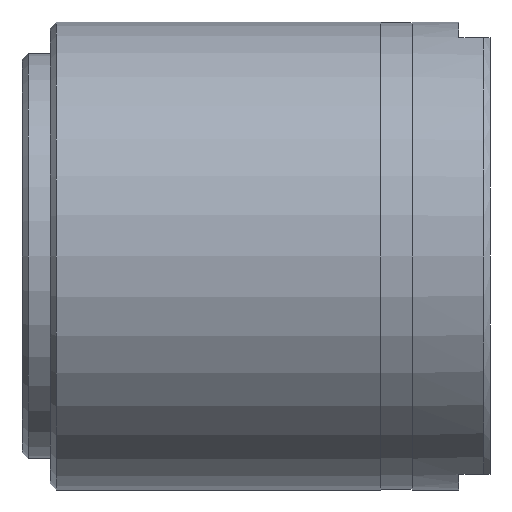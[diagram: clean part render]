
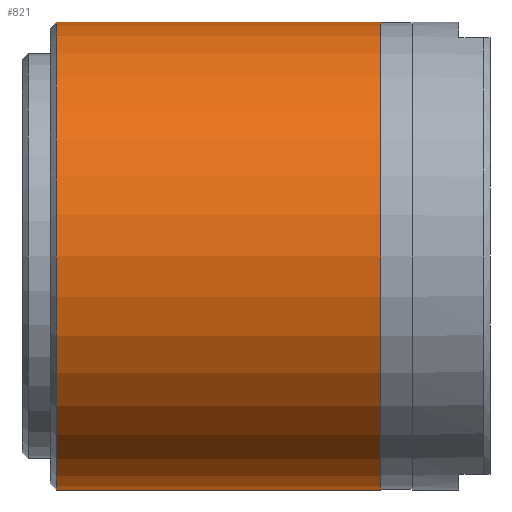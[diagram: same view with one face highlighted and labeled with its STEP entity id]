
A CAD part, left-side view. The second image highlights one B-rep face of the part: STEP entity #821.
In plain terms, the highlighted cylindrical face has radius 7.5 mm (diameter 15 mm), a partial arc.
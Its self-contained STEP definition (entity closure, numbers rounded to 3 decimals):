
#71 = LINE ( 'NONE', #3560, #3564 ) ;
#374 = EDGE_CURVE ( 'NONE', #5309, #3554, #3592, .T. ) ;
#663 = DIRECTION ( 'NONE',  ( 0., 0., -1. ) ) ;
#674 = CIRCLE ( 'NONE', #3616, 7.5 ) ;
#757 = DIRECTION ( 'NONE',  ( 0., -1., 0. ) ) ;
#821 = ADVANCED_FACE ( 'NONE', ( #1828 ), #4863, .T. ) ;
#1054 = CARTESIAN_POINT ( 'NONE',  ( 0., -4., -7.5 ) ) ;
#1084 = CARTESIAN_POINT ( 'NONE',  ( 0., -4., 7.5 ) ) ;
#1361 = VERTEX_POINT ( 'NONE', #1572 ) ;
#1454 = EDGE_CURVE ( 'NONE', #5063, #1361, #674, .T. ) ;
#1564 = AXIS2_PLACEMENT_3D ( 'NONE', #1858, #4895, #3580 ) ;
#1572 = CARTESIAN_POINT ( 'NONE',  ( 0., 6.4, -7.5 ) ) ;
#1624 = AXIS2_PLACEMENT_3D ( 'NONE', #4158, #2869, #663 ) ;
#1684 = DIRECTION ( 'NONE',  ( 0., 0., -1. ) ) ;
#1828 = FACE_OUTER_BOUND ( 'NONE', #5155, .T. ) ;
#1858 = CARTESIAN_POINT ( 'NONE',  ( 0., -7.5, 0. ) ) ;
#2156 = DIRECTION ( 'NONE',  ( 0., -1., 0. ) ) ;
#2211 = CARTESIAN_POINT ( 'NONE',  ( 0., -7.5, -7.5 ) ) ;
#2647 = DIRECTION ( 'NONE',  ( 0., -1., 0. ) ) ;
#2869 = DIRECTION ( 'NONE',  ( 0., -1., 0. ) ) ;
#2963 = CARTESIAN_POINT ( 'NONE',  ( 0., 6.4, 0. ) ) ;
#3326 = ORIENTED_EDGE ( 'NONE', *, *, #374, .F. ) ;
#3554 = VERTEX_POINT ( 'NONE', #1054 ) ;
#3560 = CARTESIAN_POINT ( 'NONE',  ( 0., -7.5, 7.5 ) ) ;
#3564 = VECTOR ( 'NONE', #2156, 1000. ) ;
#3580 = DIRECTION ( 'NONE',  ( 0., 0., -1. ) ) ;
#3592 = CIRCLE ( 'NONE', #1624, 7.5 ) ;
#3616 = AXIS2_PLACEMENT_3D ( 'NONE', #2963, #757, #1684 ) ;
#3785 = EDGE_CURVE ( 'NONE', #5063, #5309, #71, .T. ) ;
#3899 = ORIENTED_EDGE ( 'NONE', *, *, #1454, .T. ) ;
#3928 = LINE ( 'NONE', #2211, #5355 ) ;
#4158 = CARTESIAN_POINT ( 'NONE',  ( 0., -4., 0. ) ) ;
#4719 = ORIENTED_EDGE ( 'NONE', *, *, #5451, .T. ) ;
#4863 = CYLINDRICAL_SURFACE ( 'NONE', #1564, 7.5 ) ;
#4895 = DIRECTION ( 'NONE',  ( 0., -1., 0. ) ) ;
#4995 = CARTESIAN_POINT ( 'NONE',  ( 0., 6.4, 7.5 ) ) ;
#5063 = VERTEX_POINT ( 'NONE', #4995 ) ;
#5155 = EDGE_LOOP ( 'NONE', ( #5613, #3899, #4719, #3326 ) ) ;
#5309 = VERTEX_POINT ( 'NONE', #1084 ) ;
#5355 = VECTOR ( 'NONE', #2647, 1000. ) ;
#5451 = EDGE_CURVE ( 'NONE', #1361, #3554, #3928, .T. ) ;
#5613 = ORIENTED_EDGE ( 'NONE', *, *, #3785, .F. ) ;
